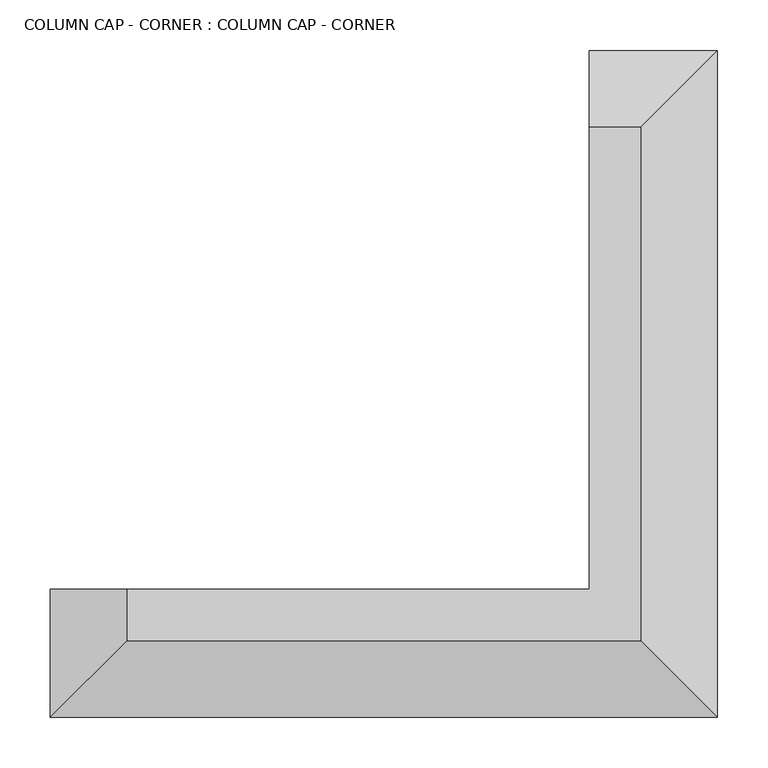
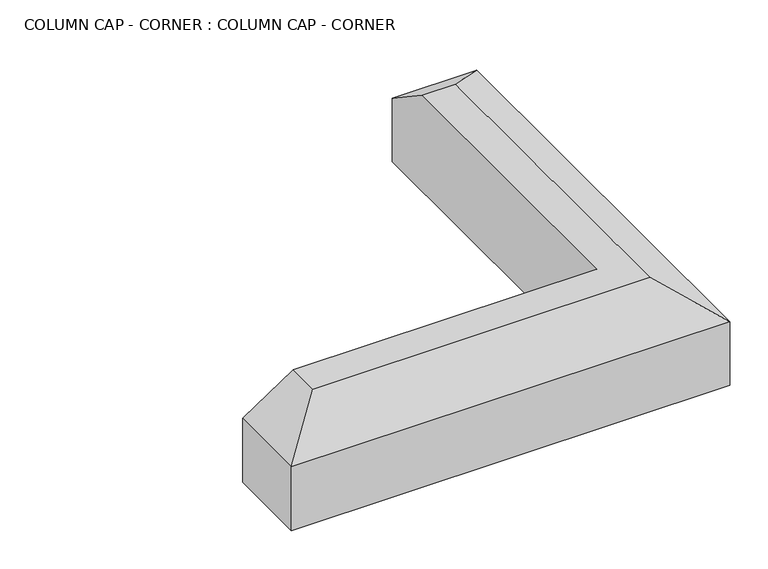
"""IFC4 building model written with IfcOpenShell, lengths in millimetres: proxy geometry, COLUMN CAP - CORNER : COLUMN CAP - CORNER."""

from ifc_helpers import new_model, si_unit, origin, place, context, project, spatial, faceted_brep, source, transform, mapped, element, save


def column_cap_corner_column_cap_corner_2673580a(model_context):
    return source(origin(), model_context, "Body", "Brep", [
        faceted_brep([(4587.764747, -5775.1989595, 35153.6), (4587.764747, -5648.1989595, 35153.6), (5121.164747, -5648.1989595, 35153.6), (5121.164747, -5114.7989595, 35153.6), (5248.164747, -5114.7989595, 35153.6), (5248.164747, -5775.1989595, 35153.6), (5248.164747, -5775.1989595, 35255.2), (4587.764747, -5775.1989595, 35255.2), (5248.164747, -5114.7989595, 35255.2), (5121.164747, -5114.7989595, 35255.2), (5121.164747, -5648.1989595, 35306.0), (5121.164747, -5190.9989595, 35306.0), (4587.764747, -5648.1989595, 35255.2), (4663.964747, -5648.1989595, 35306.0), (4663.964747, -5698.9989595, 35306.0), (5171.964747, -5698.9989595, 35306.0), (5171.964747, -5190.9989595, 35306.0)], [[[0, 1, 2, 3, 4, 5]], [[0, 5, 6, 7]], [[5, 4, 8, 6]], [[4, 3, 9, 8]], [[3, 2, 10, 11, 9]], [[10, 2, 1, 12, 13]], [[1, 0, 7, 12]], [[14, 15, 16, 11, 10, 13]], [[15, 14, 7, 6]], [[16, 15, 6, 8]], [[11, 16, 8, 9]], [[14, 13, 12, 7]]]),
    ])


if __name__ == "__main__":
    model = new_model("IFC4")
    model_context = context("Model", 3, world=origin())
    ifc_project = project(units=[si_unit("LENGTHUNIT", "METRE", prefix="MILLI")], contexts=[model_context])
    site = spatial("IfcSite", under=ifc_project)
    building = spatial("IfcBuilding", under=site)
    placement = place(None, origin())
    column_cap_corner_column_cap_corner_shape = column_cap_corner_column_cap_corner_2673580a(model_context)
    element("IfcBuildingElementProxy", 1, Name="COLUMN CAP - CORNER : COLUMN CAP - CORNER", ObjectType="COLUMN CAP - CORNER : COLUMN CAP - CORNER", at=placement, inside=building, context=model_context, shape_type="MappedRepresentation", body=[
        mapped(column_cap_corner_column_cap_corner_shape, transform((0.0, 0.0, 0.0), x_axis=(1.0, 0.0, 0.0), y_axis=(0.0, 1.0, 0.0), z_axis=(0.0, 0.0, 1.0))),
    ])
    save(model, "model.ifc")
